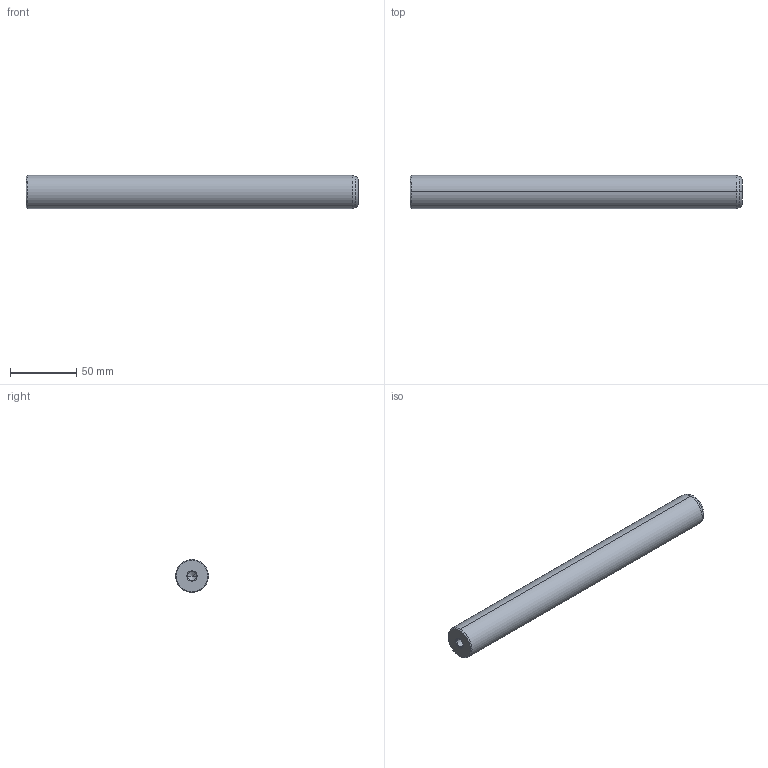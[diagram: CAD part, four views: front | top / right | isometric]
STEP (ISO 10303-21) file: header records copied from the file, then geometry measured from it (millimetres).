
FILE_DESCRIPTION(('CATIA V5 STEP Exchange'),'2;1');
FILE_NAME('C:\Users\Utente\Desktop\IO LAVORO\3D X SITO CF\X SITO\720\720-25x250.stp','2021-01-01T12:40:12+00:00',('none'),('none'),'CATIA Version 5 Release 20 GA (IN-10)','CATIA V5 STEP AP203','none');
FILE_SCHEMA(('CONFIG_CONTROL_DESIGN'));
Length unit declared in the file: millimetre
Products named in the file (1): 720-25x250
Bounding box: 250 x 25 x 25 mm (x, y, z)
Volume: 120741.8 mm3; surface area: 21445.6 mm2
Topology: 1 solids, 1 shells, 22 faces, 56 edges, 34 vertices
Faces by surface type: cone 12, cylinder 6, plane 2, torus 2
Entity records: 755 total; most frequent: CARTESIAN_POINT 216, ORIENTED_EDGE 104, DIRECTION 89, EDGE_CURVE 52, AXIS2_PLACEMENT_3D 50, VERTEX_POINT 34, CIRCLE 27, EDGE_LOOP 24
